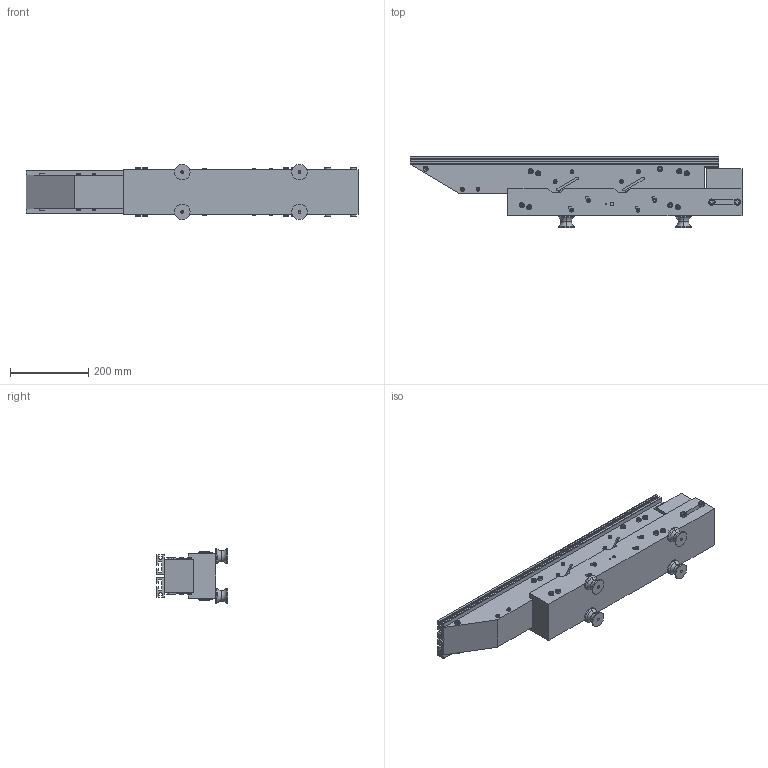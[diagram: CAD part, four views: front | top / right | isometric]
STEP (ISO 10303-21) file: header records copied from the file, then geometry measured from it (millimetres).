
FILE_DESCRIPTION (( 'STEP AP203' ), '1' );
FILE_NAME ('ZL800 眻盄23..STEP', '2023-04-13T01:52:16', ( '' ), ( '' ), 'SwSTEP 2.0', 'SolidWorks 2022', '' );
FILE_SCHEMA (( 'CONFIG_CONTROL_DESIGN' ));
Length unit declared in the file: millimetre
Products named in the file (1): ZL800 眻盄23.
Bounding box: 850 x 182 x 142 mm (x, y, z)
Volume: 10231840.9 mm3; surface area: 739838 mm2
Topology: 13 solids, 47 shells, 1354 faces, 2896 edges, 1746 vertices
Faces by surface type: plane 838, cylinder 278, cone 136, bspline 86, torus 16
Entity records: 36975 total; most frequent: CARTESIAN_POINT 7537, DIRECTION 6272, ORIENTED_EDGE 5776, EDGE_CURVE 2888, AXIS2_PLACEMENT_3D 2201, LINE 1870, VECTOR 1870, VERTEX_POINT 1746
